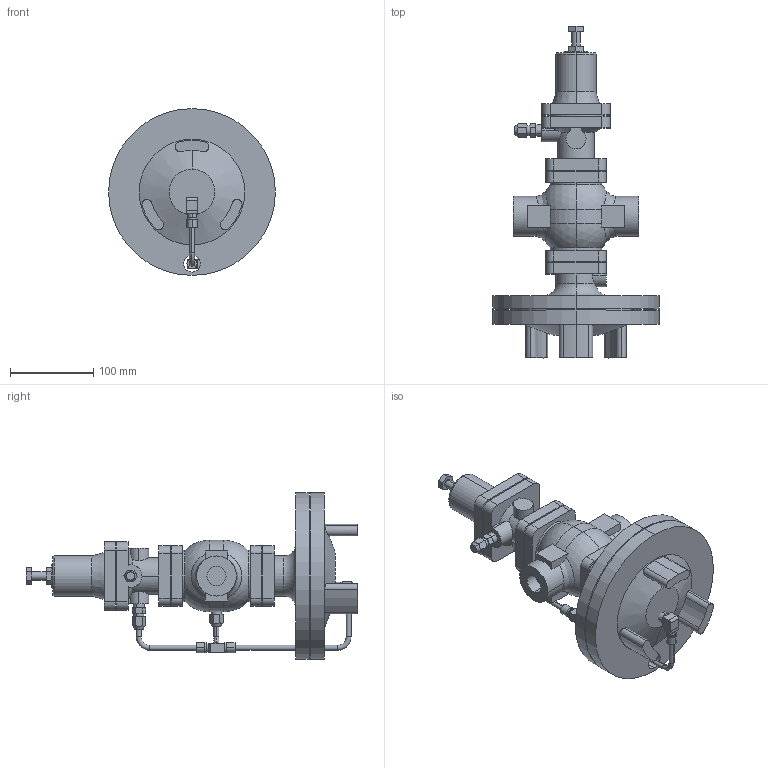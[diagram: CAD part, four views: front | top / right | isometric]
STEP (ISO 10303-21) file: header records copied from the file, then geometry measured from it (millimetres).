
FILE_DESCRIPTION (( 'STEP AP203' ), '1' );
FILE_NAME ('GPR-2000 JIS Rc 20A.STEP', '2025-12-05T01:50:53', ( '' ), ( '' ), 'SwSTEP 2.0', 'SolidWorks 2024', '' );
FILE_SCHEMA (( 'CONFIG_CONTROL_DESIGN' ));
Length unit declared in the file: millimetre
Products named in the file (8): Pipe B 15-20A; Pipe C 15-20A; GPR-2000 Body Assy EN 15A; Tee; GPR-2000 JIS Rc 20A; Joint; Elbow; Pipe A 15-25A
Assembly tree (9 placements, depth 2):
  GPR-2000 JIS Rc 20A
    GPR-2000 Body Assy EN 15A
    Tee
    Joint  x3
    Pipe B 15-20A
    Pipe A 15-25A
    Elbow
    Pipe C 15-20A
Bounding box: 200 x 397.9 x 200 mm (x, y, z)
Volume: 2503065.8 mm3; surface area: 261314.8 mm2
Topology: 9 solids, 9 shells, 375 faces, 939 edges, 625 vertices
Faces by surface type: plane 186, cylinder 144, cone 27, torus 10, sphere 4, bspline 4
Entity records: 12523 total; most frequent: CARTESIAN_POINT 3670, DIRECTION 1733, ORIENTED_EDGE 1610, EDGE_CURVE 805, AXIS2_PLACEMENT_3D 658, VERTEX_POINT 529, VECTOR 417, LINE 417
